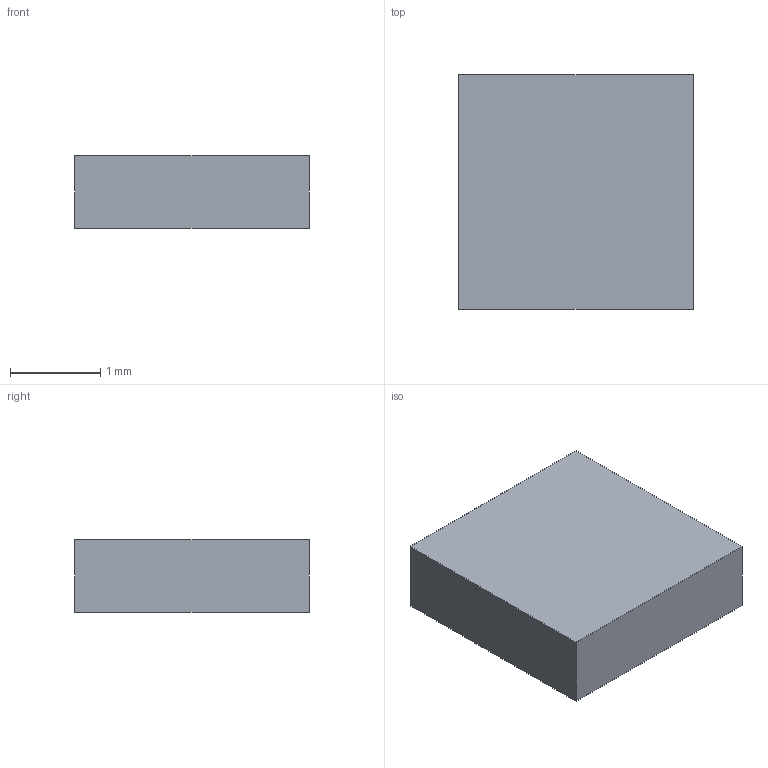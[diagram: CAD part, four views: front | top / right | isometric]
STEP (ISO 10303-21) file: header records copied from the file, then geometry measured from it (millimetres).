
FILE_DESCRIPTION(('Open CASCADE Model'),'2;1');
FILE_NAME('Open CASCADE Shape Model','2026-09-17T14:57:39',('Author'),( 'Open CASCADE'),'Open CASCADE STEP processor 7.8','Open CASCADE 7.8' ,'Unknown');
FILE_SCHEMA(('AUTOMOTIVE_DESIGN { 1 0 10303 214 1 1 1 1 }'));
Length unit declared in the file: millimetre
Products named in the file (1): Open CASCADE STEP translator 7.8 38
Bounding box: 2.6 x 2.6 x 0.8 mm (x, y, z)
Volume: 5.4 mm3; surface area: 21.8 mm2
Topology: 1 solids, 1 shells, 6 faces, 12 edges, 8 vertices
Faces by surface type: plane 6
Entity records: 322 total; most frequent: CARTESIAN_POINT 51, DIRECTION 50, LINE 36, VECTOR 36, ORIENTED_EDGE 24, PCURVE 24, DEFINITIONAL_REPRESENTATION 24, EDGE_CURVE 12
